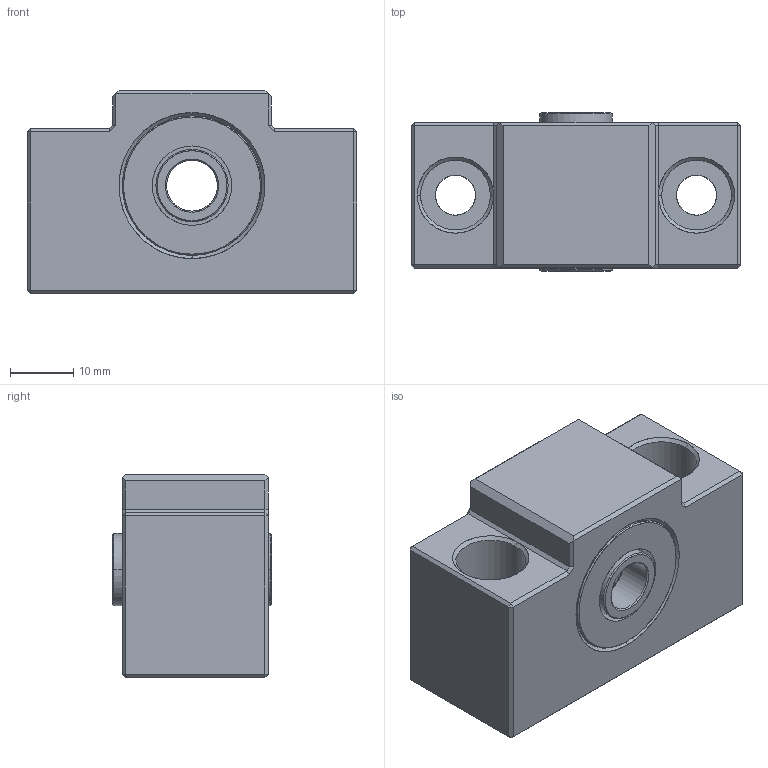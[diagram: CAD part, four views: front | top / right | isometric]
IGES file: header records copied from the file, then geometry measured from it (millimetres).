
Start section: SolidWorks IGES file using analytic representation for surfaces
Global section: file name: E:\同创达图纸\产品示意图\3D选型图\支撑座\EK系列\EK08.IGS; native system: SolidWorks 2012; preprocessor: SolidWorks 2012; author: gao; date: 130702.172932; units: millimetre
Bounding box: 52 x 25 x 32 mm (x, y, z)
Surface area: 9412.9 mm2 (no closed solid volume)
Topology: 0 solids, 0 shells, 110 faces, 1244 edges, 1242 vertices
Faces by surface type: bspline 56, revolution 54
